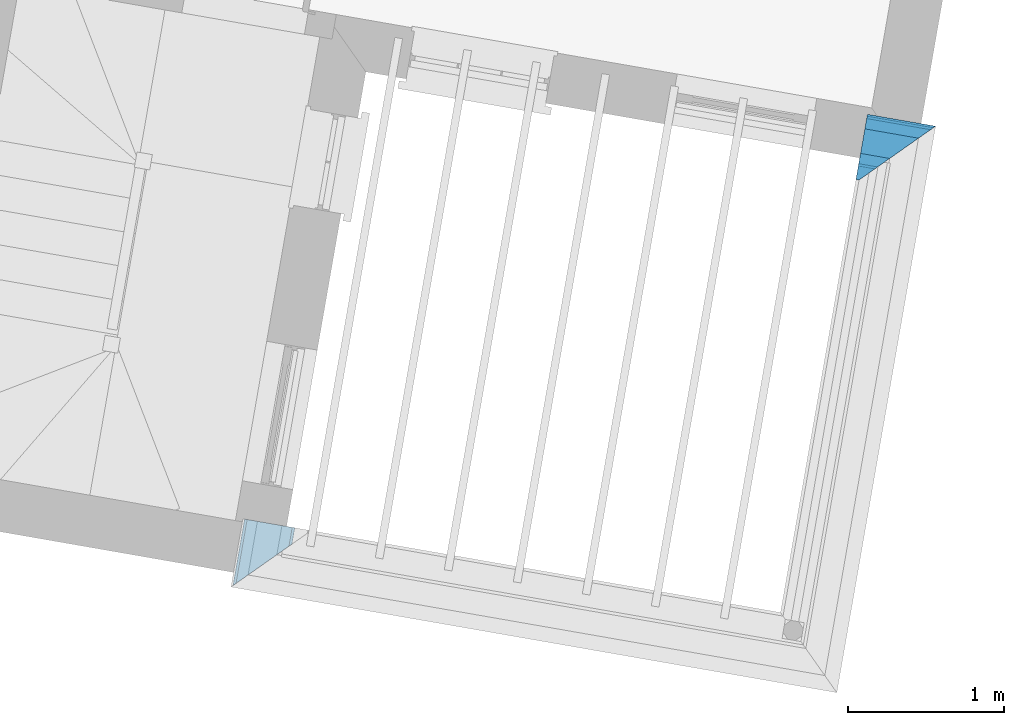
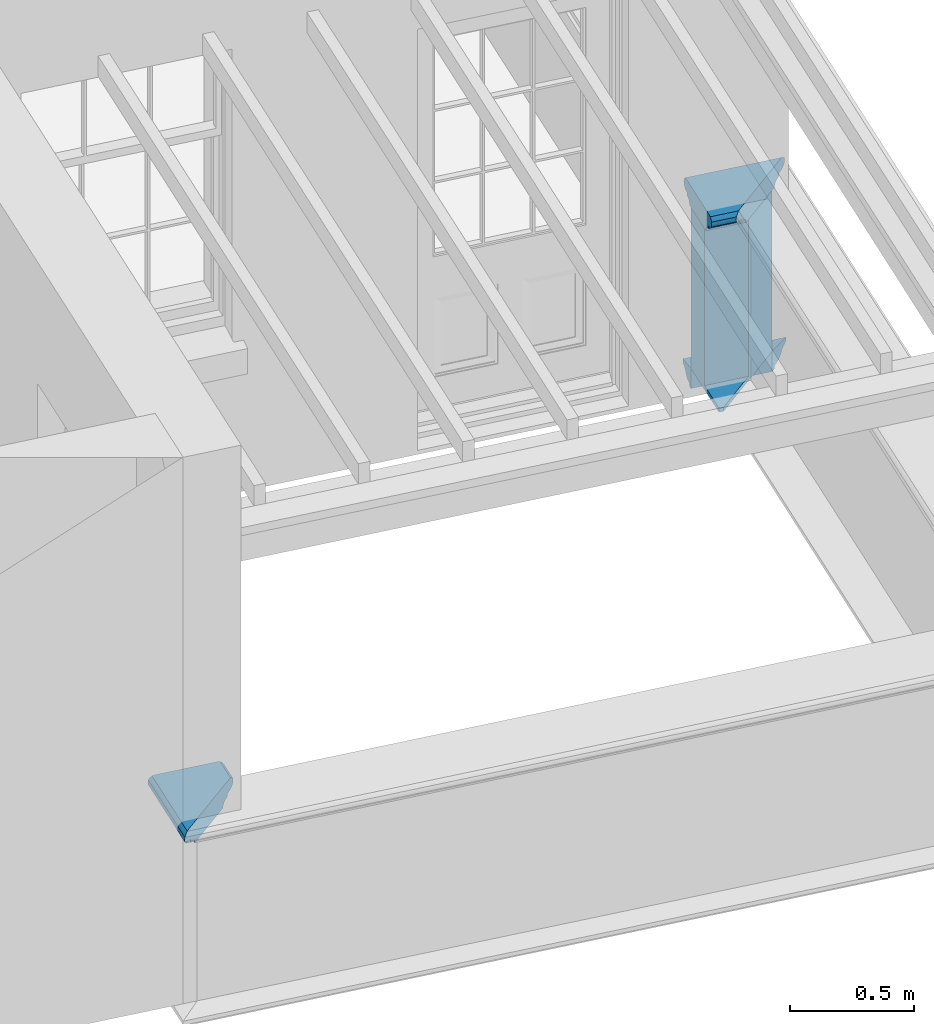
# One storey, part 5 of 6: 4 walls.
"""IFC4 building model written with IfcOpenShell, lengths in metres."""

from ifc_helpers import new_model, si_unit, frame, origin_with_axes, place, context, subcontext, project, spatial, polyline, outline, extrude, clip, halfspace, material_profile, profile_set, profile_usage, type_object, element, save


model = new_model("IFC4")

# Units and contexts
model_context = context("Model", 3, world=origin_with_axes())
body_context = subcontext(model_context, "Body", "Model", "MODEL_VIEW")
ifc_project = project(units=[si_unit("PLANEANGLEUNIT", "RADIAN"), si_unit("MASSUNIT", "GRAM", prefix="KILO"), si_unit("FORCEUNIT", "NEWTON", prefix="KILO"), si_unit("LENGTHUNIT", "METRE"), si_unit("AREAUNIT", "SQUARE_METRE"), si_unit("VOLUMEUNIT", "CUBIC_METRE")], contexts=[model_context, model_context])

# Sites, building, storey
site_1_placement = place(None, origin_with_axes())
site_1 = spatial("IfcSite", under=ifc_project, at=site_1_placement, Name="Tamar")
site_2_placement = place(site_1_placement, origin_with_axes())
site_2 = spatial("IfcSite", under=site_1, at=site_2_placement, Name="Site plot-27", CompositionType="ELEMENT")
building_placement = place(None, origin_with_axes())
building = spatial("IfcBuilding", under=site_2, at=building_placement, Name="Building plot-27", CompositionType="ELEMENT")
storey_placement = place(None, frame((0.0, 0.0, 29.3), z_axis=(0.0, 0.0, 1.0), x_axis=(1.0, 0.0, 0.0)))
storey = spatial("IfcBuildingStorey", under=building, at=storey_placement, Name="plot-27 1", CompositionType="ELEMENT", Elevation=29.3)

# Walls
ifc_material_profile_1 = material_profile(None, outline(polyline([(0.25, 0.0), (0.25, 0.795), (0.09, 0.795), (0.09, 0.02), (-0.08, 0.02), (-0.08, 0.0), (0.25, 0.0)])))
ifc_profile_set_1 = profile_set([ifc_material_profile_1])
ifc_profile_usage_1 = profile_usage(ifc_profile_set_1)
wall_type_1 = type_object("IfcWallType", Name="parapet_0", PredefinedType="PARAPET", material=ifc_profile_set_1)
wall_1_placement = place(storey_placement, frame((296.063067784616, 271.401719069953, 0.0), z_axis=(0.985133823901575, -0.171788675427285, 0.0), x_axis=(0.171788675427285, 0.985133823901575, 0.0)))
element("IfcWall", 1, at=wall_1_placement, inside=storey, type_object=wall_type_1, material=ifc_profile_usage_1, Name="parapet_0", context=body_context, shape_type="Clipping", body=[
    clip(clip(extrude(outline(polyline([(0.25, 0.0), (0.25, 0.795), (0.09, 0.795), (0.09, 0.02), (-0.08, 0.02), (-0.08, 0.0), (0.25, 0.0)])), origin_with_axes(), (0.0, 0.0, 1.0), 2.09999999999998), halfspace(frame((0.0, 0.0, 1.09999999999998), z_axis=(0.707106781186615, 0.0, -0.70710678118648), x_axis=(0.0, 1.0, 0.0)), True)), halfspace(frame((0.0, 0.0, 1.0), z_axis=(2.65841202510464e-14, 0.0, -1.0), x_axis=(0.0, 1.0, 0.0)), False)),
])
ifc_material_profile_2 = material_profile(None, outline(polyline([(0.265, 0.795), (0.268, 0.807), (0.274, 0.816), (0.283, 0.822), (0.295, 0.825), (0.295, 0.84), (0.305, 0.84), (0.317, 0.842), (0.326, 0.849), (0.333, 0.858), (0.335, 0.87), (0.333, 0.882), (0.326, 0.891), (0.317, 0.898), (0.305, 0.9), (0.035, 0.9), (0.023, 0.898), (0.014, 0.891), (0.007, 0.882), (0.005, 0.87), (0.007, 0.858), (0.014, 0.849), (0.023, 0.842), (0.035, 0.84), (0.045, 0.84), (0.045, 0.825), (0.057, 0.822), (0.066, 0.816), (0.072, 0.807), (0.075, 0.795), (0.265, 0.795)])))
ifc_profile_set_2 = profile_set([ifc_material_profile_2])
ifc_profile_usage_2 = profile_usage(ifc_profile_set_2)
wall_type_2 = type_object("IfcWallType", Name="parapet_1", PredefinedType="PARAPET", material=ifc_profile_set_2)
wall_2_placement = place(storey_placement, frame((293.246538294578, 267.828664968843, 0.0), z_axis=(0.171788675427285, 0.985133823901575, 0.0), x_axis=(-0.985133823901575, 0.171788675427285, 0.0)))
element("IfcWall", 2, at=wall_2_placement, inside=storey, type_object=wall_type_2, material=ifc_profile_usage_2, Name="parapet_1", context=body_context, shape_type="Clipping", body=[
    clip(clip(extrude(outline(polyline([(0.265, 0.795), (0.268, 0.807), (0.274, 0.816), (0.283, 0.822), (0.295, 0.825), (0.295, 0.84), (0.305, 0.84), (0.317, 0.842), (0.326, 0.849), (0.333, 0.858), (0.335, 0.87), (0.333, 0.882), (0.326, 0.891), (0.317, 0.898), (0.305, 0.9), (0.035, 0.9), (0.023, 0.898), (0.014, 0.891), (0.007, 0.882), (0.005, 0.87), (0.007, 0.858), (0.014, 0.849), (0.023, 0.842), (0.035, 0.84), (0.045, 0.84), (0.045, 0.825), (0.057, 0.822), (0.066, 0.816), (0.072, 0.807), (0.075, 0.795), (0.265, 0.795)])), origin_with_axes(), (0.0, 0.0, 1.0), 2.09999999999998), halfspace(frame((0.0, 0.0, 1.09999999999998), z_axis=(2.65841202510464e-14, 0.0, -1.0), x_axis=(0.0, 1.0, 0.0)), True)), halfspace(frame((0.0, 0.0, 1.0), z_axis=(-0.707106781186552, 0.0, -0.707106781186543), x_axis=(0.0, 1.0, 0.0)), False)),
])
ifc_profile_usage_3 = profile_usage(ifc_profile_set_2)
wall_3_placement = place(storey_placement, frame((296.063067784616, 271.401719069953, 0.0), z_axis=(0.985133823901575, -0.171788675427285, 0.0), x_axis=(0.171788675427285, 0.985133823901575, 0.0)))
element("IfcWall", 3, at=wall_3_placement, inside=storey, type_object=wall_type_2, material=ifc_profile_usage_3, Name="parapet_1", context=body_context, shape_type="Clipping", body=[
    clip(clip(extrude(outline(polyline([(0.265, 0.795), (0.268, 0.807), (0.274, 0.816), (0.283, 0.822), (0.295, 0.825), (0.295, 0.84), (0.305, 0.84), (0.317, 0.842), (0.326, 0.849), (0.333, 0.858), (0.335, 0.87), (0.333, 0.882), (0.326, 0.891), (0.317, 0.898), (0.305, 0.9), (0.035, 0.9), (0.023, 0.898), (0.014, 0.891), (0.007, 0.882), (0.005, 0.87), (0.007, 0.858), (0.014, 0.849), (0.023, 0.842), (0.035, 0.84), (0.045, 0.84), (0.045, 0.825), (0.057, 0.822), (0.066, 0.816), (0.072, 0.807), (0.075, 0.795), (0.265, 0.795)])), origin_with_axes(), (0.0, 0.0, 1.0), 2.09999999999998), halfspace(frame((0.0, 0.0, 1.09999999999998), z_axis=(0.707106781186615, 0.0, -0.70710678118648), x_axis=(0.0, 1.0, 0.0)), True)), halfspace(frame((0.0, 0.0, 1.0), z_axis=(2.65841202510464e-14, 0.0, -1.0), x_axis=(0.0, 1.0, 0.0)), False)),
])
ifc_material_profile_3 = material_profile(None, outline(polyline([(0.25, -0.1), (0.265, -0.1), (0.265, -0.085), (0.278, -0.084), (0.289, -0.081), (0.301, -0.074), (0.309, -0.065), (0.315, -0.055), (0.324, -0.044), (0.334, -0.038), (0.345, -0.035), (0.345, -0.015), (0.25, 0.0), (0.25, -0.1)])))
ifc_profile_set_3 = profile_set([ifc_material_profile_3])
ifc_profile_usage_4 = profile_usage(ifc_profile_set_3)
wall_type_3 = type_object("IfcWallType", Name="parapet_2", PredefinedType="PARAPET", material=ifc_profile_set_3)
wall_4_placement = place(storey_placement, frame((296.063067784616, 271.401719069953, 0.0), z_axis=(0.985133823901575, -0.171788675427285, 0.0), x_axis=(0.171788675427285, 0.985133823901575, 0.0)))
element("IfcWall", 4, at=wall_4_placement, inside=storey, type_object=wall_type_3, material=ifc_profile_usage_4, Name="parapet_2", context=body_context, shape_type="Clipping", body=[
    clip(clip(extrude(outline(polyline([(0.25, -0.1), (0.265, -0.1), (0.265, -0.085), (0.278, -0.084), (0.289, -0.081), (0.301, -0.074), (0.309, -0.065), (0.315, -0.055), (0.324, -0.044), (0.334, -0.038), (0.345, -0.035), (0.345, -0.015), (0.25, 0.0), (0.25, -0.1)])), origin_with_axes(), (0.0, 0.0, 1.0), 2.09999999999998), halfspace(frame((0.0, 0.0, 1.09999999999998), z_axis=(0.707106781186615, 0.0, -0.70710678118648), x_axis=(0.0, 1.0, 0.0)), True)), halfspace(frame((0.0, 0.0, 1.0), z_axis=(2.65841202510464e-14, 0.0, -1.0), x_axis=(0.0, 1.0, 0.0)), False)),
])

save(model, "model.ifc")
